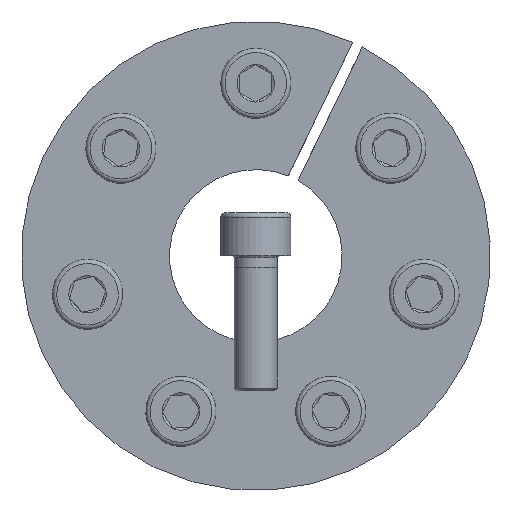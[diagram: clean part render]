
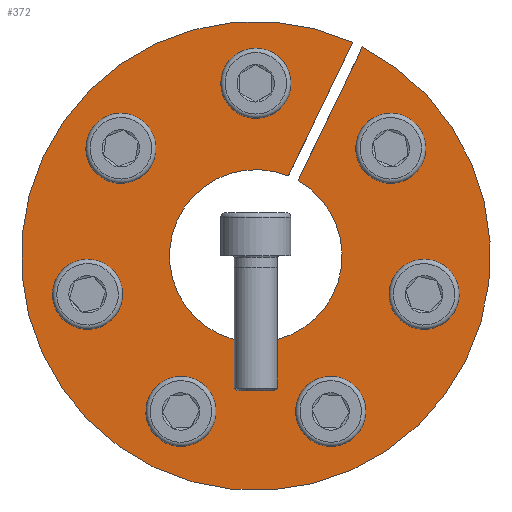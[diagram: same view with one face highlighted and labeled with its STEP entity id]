
A CAD part, front view. The second image highlights one B-rep face of the part: STEP entity #372.
In plain terms, the highlighted planar face has unit normal (0, -1, 0).
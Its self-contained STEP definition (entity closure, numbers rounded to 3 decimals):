
#372 = ADVANCED_FACE( '', ( #572, #573, #574, #575, #576, #577, #578, #579 ), #580, .F. );
#572 = FACE_OUTER_BOUND( '', #726, .T. );
#573 = FACE_BOUND( '', #727, .T. );
#574 = FACE_BOUND( '', #728, .T. );
#575 = FACE_BOUND( '', #729, .T. );
#576 = FACE_BOUND( '', #730, .T. );
#577 = FACE_BOUND( '', #731, .T. );
#578 = FACE_BOUND( '', #732, .T. );
#579 = FACE_BOUND( '', #733, .T. );
#580 = PLANE( '', #734 );
#726 = EDGE_LOOP( '', ( #910, #911, #912, #913 ) );
#727 = EDGE_LOOP( '', ( #914 ) );
#728 = EDGE_LOOP( '', ( #915 ) );
#729 = EDGE_LOOP( '', ( #916 ) );
#730 = EDGE_LOOP( '', ( #917 ) );
#731 = EDGE_LOOP( '', ( #918 ) );
#732 = EDGE_LOOP( '', ( #919 ) );
#733 = EDGE_LOOP( '', ( #920 ) );
#734 = AXIS2_PLACEMENT_3D( '', #921, #922, #923 );
#910 = ORIENTED_EDGE( '', *, *, #1235, .T. );
#911 = ORIENTED_EDGE( '', *, *, #1232, .T. );
#912 = ORIENTED_EDGE( '', *, *, #1236, .T. );
#913 = ORIENTED_EDGE( '', *, *, #1237, .F. );
#914 = ORIENTED_EDGE( '', *, *, #1238, .F. );
#915 = ORIENTED_EDGE( '', *, *, #1239, .F. );
#916 = ORIENTED_EDGE( '', *, *, #1240, .F. );
#917 = ORIENTED_EDGE( '', *, *, #1233, .F. );
#918 = ORIENTED_EDGE( '', *, *, #1241, .F. );
#919 = ORIENTED_EDGE( '', *, *, #1242, .F. );
#920 = ORIENTED_EDGE( '', *, *, #1243, .F. );
#921 = CARTESIAN_POINT( '', ( 0., 0., 43.5 ) );
#922 = DIRECTION( '', ( 0., 1., 0. ) );
#923 = DIRECTION( '', ( 1., 0., 0. ) );
#1232 = EDGE_CURVE( '', #1351, #1355, #1357, .T. );
#1233 = EDGE_CURVE( '', #1358, #1358, #1359, .T. );
#1235 = EDGE_CURVE( '', #1362, #1351, #1363, .T. );
#1236 = EDGE_CURVE( '', #1355, #1364, #1365, .T. );
#1237 = EDGE_CURVE( '', #1362, #1364, #1366, .T. );
#1238 = EDGE_CURVE( '', #1367, #1367, #1368, .T. );
#1239 = EDGE_CURVE( '', #1369, #1369, #1370, .T. );
#1240 = EDGE_CURVE( '', #1371, #1371, #1372, .T. );
#1241 = EDGE_CURVE( '', #1373, #1373, #1374, .T. );
#1242 = EDGE_CURVE( '', #1375, #1375, #1376, .T. );
#1243 = EDGE_CURVE( '', #1377, #1377, #1378, .T. );
#1351 = VERTEX_POINT( '', #1457 );
#1355 = VERTEX_POINT( '', #1462 );
#1357 = CIRCLE( '', #1465, 43.5 );
#1358 = VERTEX_POINT( '', #1466 );
#1359 = CIRCLE( '', #1467, 4.5 );
#1362 = VERTEX_POINT( '', #1470 );
#1363 = LINE( '', #1471, #1472 );
#1364 = VERTEX_POINT( '', #1473 );
#1365 = LINE( '', #1474, #1475 );
#1366 = CIRCLE( '', #1476, 16. );
#1367 = VERTEX_POINT( '', #1477 );
#1368 = CIRCLE( '', #1478, 4.5 );
#1369 = VERTEX_POINT( '', #1479 );
#1370 = CIRCLE( '', #1480, 4.5 );
#1371 = VERTEX_POINT( '', #1481 );
#1372 = CIRCLE( '', #1482, 4.5 );
#1373 = VERTEX_POINT( '', #1483 );
#1374 = CIRCLE( '', #1484, 4.5 );
#1375 = VERTEX_POINT( '', #1485 );
#1376 = CIRCLE( '', #1486, 4.5 );
#1377 = VERTEX_POINT( '', #1487 );
#1378 = CIRCLE( '', #1488, 4.5 );
#1457 = CARTESIAN_POINT( '', ( 17.968, 0., 39.616 ) );
#1462 = CARTESIAN_POINT( '', ( 19.77, 0., 38.748 ) );
#1465 = AXIS2_PLACEMENT_3D( '', #1595, #1596, #1597 );
#1466 = CARTESIAN_POINT( '', ( 9.83, 0., -30.783 ) );
#1467 = AXIS2_PLACEMENT_3D( '', #1598, #1599, #1600 );
#1470 = CARTESIAN_POINT( '', ( 6.028, 0., 14.821 ) );
#1471 = CARTESIAN_POINT( '', ( 6.028, 0., 14.821 ) );
#1472 = VECTOR( '', #1604, 1000. );
#1473 = CARTESIAN_POINT( '', ( 7.83, 0., 13.953 ) );
#1474 = CARTESIAN_POINT( '', ( 19.775, 0., 38.758 ) );
#1475 = VECTOR( '', #1605, 1000. );
#1476 = AXIS2_PLACEMENT_3D( '', #1606, #1607, #1608 );
#1477 = CARTESIAN_POINT( '', ( 4.5, 0., 32. ) );
#1478 = AXIS2_PLACEMENT_3D( '', #1609, #1610, #1611 );
#1479 = CARTESIAN_POINT( '', ( 27.824, 0., 16.433 ) );
#1480 = AXIS2_PLACEMENT_3D( '', #1612, #1613, #1614 );
#1481 = CARTESIAN_POINT( '', ( 30.196, 0., -11.508 ) );
#1482 = AXIS2_PLACEMENT_3D( '', #1615, #1616, #1617 );
#1483 = CARTESIAN_POINT( '', ( -17.939, 0., -26.879 ) );
#1484 = AXIS2_PLACEMENT_3D( '', #1618, #1619, #1620 );
#1485 = CARTESIAN_POINT( '', ( -32.199, 0., -2.733 ) );
#1486 = AXIS2_PLACEMENT_3D( '', #1621, #1622, #1623 );
#1487 = CARTESIAN_POINT( '', ( -22.213, 0., 23.47 ) );
#1488 = AXIS2_PLACEMENT_3D( '', #1624, #1625, #1626 );
#1595 = CARTESIAN_POINT( '', ( 0., 0., 0. ) );
#1596 = DIRECTION( '', ( 0., -1., 0. ) );
#1597 = DIRECTION( '', ( 0., 0., -1. ) );
#1598 = CARTESIAN_POINT( '', ( 13.884, 0., -28.831 ) );
#1599 = DIRECTION( '', ( 0., -1., 0. ) );
#1600 = DIRECTION( '', ( -0.901, 0., -0.434 ) );
#1604 = DIRECTION( '', ( 0.434, 0., 0.901 ) );
#1605 = DIRECTION( '', ( -0.434, 0., -0.901 ) );
#1606 = CARTESIAN_POINT( '', ( 0., 0., 0. ) );
#1607 = DIRECTION( '', ( 0., -1., 0. ) );
#1608 = DIRECTION( '', ( 0., 0., -1. ) );
#1609 = CARTESIAN_POINT( '', ( 0., 0., 32. ) );
#1610 = DIRECTION( '', ( 0., -1., 0. ) );
#1611 = DIRECTION( '', ( 1., 0., 0. ) );
#1612 = CARTESIAN_POINT( '', ( 25.019, 0., 19.952 ) );
#1613 = DIRECTION( '', ( 0., -1., 0. ) );
#1614 = DIRECTION( '', ( 0.623, 0., -0.782 ) );
#1615 = CARTESIAN_POINT( '', ( 31.198, 0., -7.121 ) );
#1616 = DIRECTION( '', ( 0., -1., 0. ) );
#1617 = DIRECTION( '', ( -0.223, 0., -0.975 ) );
#1618 = CARTESIAN_POINT( '', ( -13.884, 0., -28.831 ) );
#1619 = DIRECTION( '', ( 0., -1., 0. ) );
#1620 = DIRECTION( '', ( -0.901, 0., 0.434 ) );
#1621 = CARTESIAN_POINT( '', ( -31.198, 0., -7.121 ) );
#1622 = DIRECTION( '', ( 0., -1., 0. ) );
#1623 = DIRECTION( '', ( -0.223, 0., 0.975 ) );
#1624 = CARTESIAN_POINT( '', ( -25.019, 0., 19.952 ) );
#1625 = DIRECTION( '', ( 0., -1., 0. ) );
#1626 = DIRECTION( '', ( 0.623, 0., 0.782 ) );
